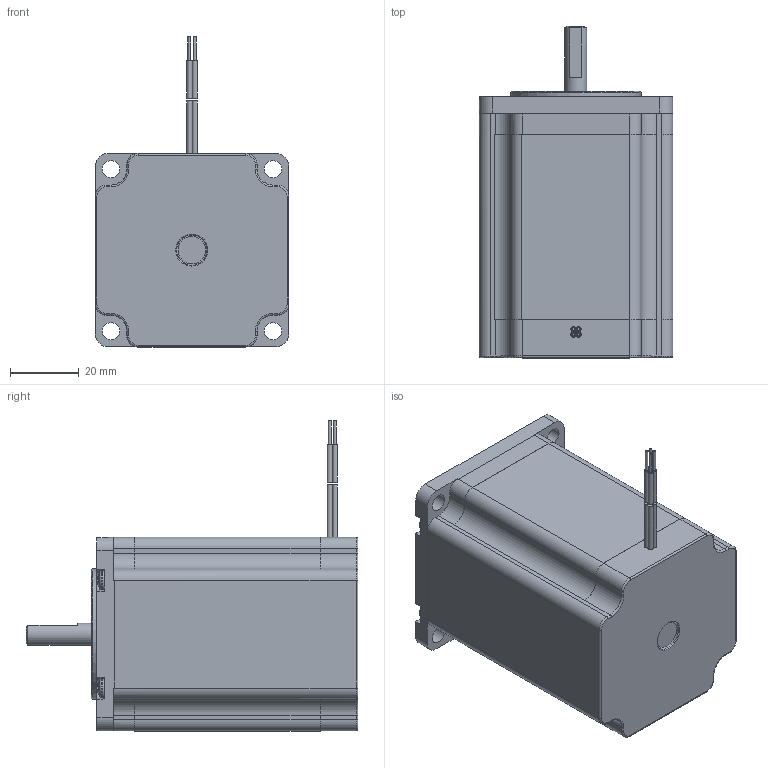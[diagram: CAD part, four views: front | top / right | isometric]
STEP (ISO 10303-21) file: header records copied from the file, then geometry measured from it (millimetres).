
FILE_DESCRIPTION((''),'1');
FILE_NAME('T:/Kubotek Models For Design Assemblies/3D Step File Models Posted on-line/Standalone Products/NEMA23/M-2231-3.0S.stp', '2019-04-02T15:25:07',(''), (''), 'KCM Version 1.1.0.0', 'KeyCreator', '');
FILE_SCHEMA(('AUTOMOTIVE_DESIGN'));
Length unit declared in the file: inch
Bounding box: 56.3 x 96.57 x 90.26 mm (x, y, z)
Volume: 3508.9 mm3; surface area: 28228.8 mm2
Topology: 12 solids, 13 shells, 301 faces, 715 edges, 457 vertices
Faces by surface type: plane 162, cylinder 86, cone 25, torus 24, sphere 4
Full cylindrical faces by diameter (mm): 0.833 x4, 3.175 x8, 5 x4, 6.35 x1, 8 x1, 8.788 x1, 38.1 x1
Entity records: 9072 total; most frequent: DIRECTION 1573, CARTESIAN_POINT 1553, ORIENTED_EDGE 1438, EDGE_CURVE 715, AXIS2_PLACEMENT_3D 613, VERTEX_POINT 457, VECTOR 347, LINE 347
